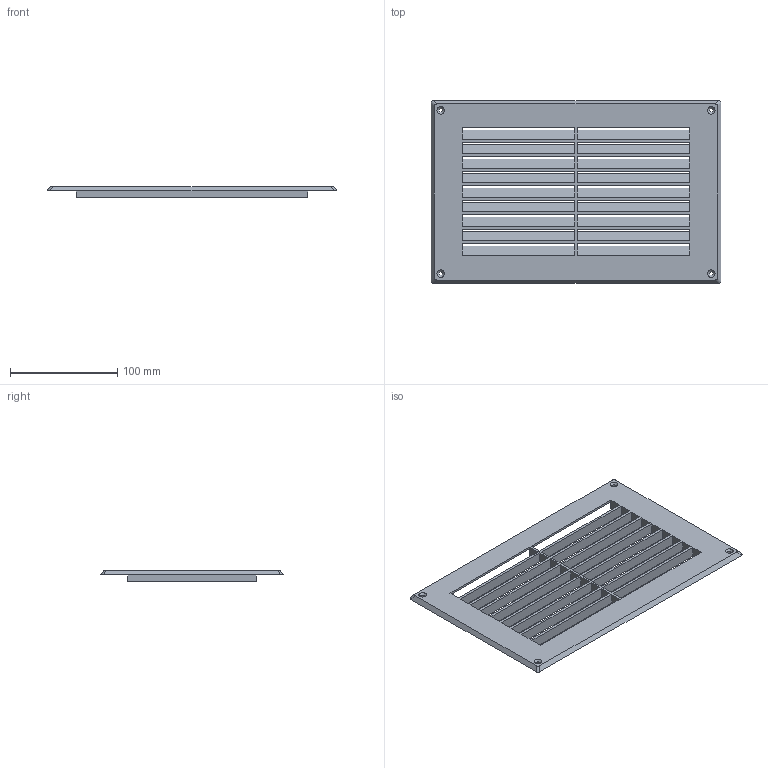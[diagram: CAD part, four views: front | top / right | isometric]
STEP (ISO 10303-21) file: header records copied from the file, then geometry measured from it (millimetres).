
FILE_DESCRIPTION(/* description */ (''),/* implementation_level */ '2;1');
FILE_NAME(/* name */ '\\NAS\db20\GR-PVC-270-170\DR_GR-PVC-270-170.stp',/* time_stamp */ '2017-10-13T13:27:48+09:00',/* author */ ('user'),/* organization */ (''),/* preprocessor_version */ 'ST-DEVELOPER v15.6',/* originating_system */ 'Autodesk Inventor 2015',/* authorisation */ '');
FILE_SCHEMA (('AUTOMOTIVE_DESIGN { 1 0 10303 214 3 1 1 }'));
Length unit declared in the file: millimetre
Products named in the file (1): DR_GR-PVC-270-170
Bounding box: 270 x 170 x 10 mm (x, y, z)
Volume: 172096.5 mm3; surface area: 117231.5 mm2
Topology: 1 solids, 1 shells, 118 faces, 328 edges, 216 vertices
Faces by surface type: plane 94, cylinder 16, cone 8
Full cylindrical faces by diameter (mm): 3.5 x4, 7.5 x4
Entity records: 3724 total; most frequent: CARTESIAN_POINT 639, ORIENTED_EDGE 616, DIRECTION 586, EDGE_CURVE 308, LINE 268, VECTOR 268, VERTEX_POINT 212, EDGE_LOOP 182
